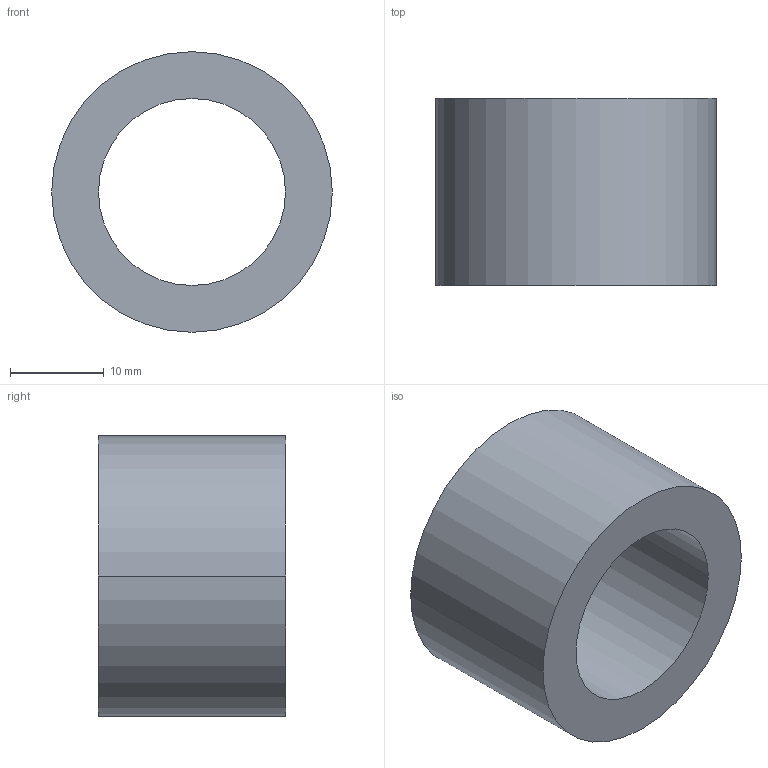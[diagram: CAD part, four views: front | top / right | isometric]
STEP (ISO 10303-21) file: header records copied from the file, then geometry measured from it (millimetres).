
FILE_DESCRIPTION (( 'STEP AP203' ), '1' );
FILE_NAME ('30800.WPP30H20.0.step', '2019-01-23T22:47:02', ( '' ), ( '' ), 'SwSTEP 2.0', 'SolidWorks 2017', '' );
FILE_SCHEMA (( 'CONFIG_CONTROL_DESIGN' ));
Length unit declared in the file: millimetre
Products named in the file (1): 30800.WPP30H20.0
Bounding box: 30 x 20 x 30 mm (x, y, z)
Volume: 7724.5 mm3; surface area: 3850.1 mm2
Topology: 1 solids, 1 shells, 8 faces, 16 edges, 10 vertices
Faces by surface type: cylinder 4, torus 2, plane 2
Entity records: 297 total; most frequent: DIRECTION 46, CARTESIAN_POINT 35, ORIENTED_EDGE 32, AXIS2_PLACEMENT_3D 21, EDGE_CURVE 16, CIRCLE 12, EDGE_LOOP 10, VERTEX_POINT 10
